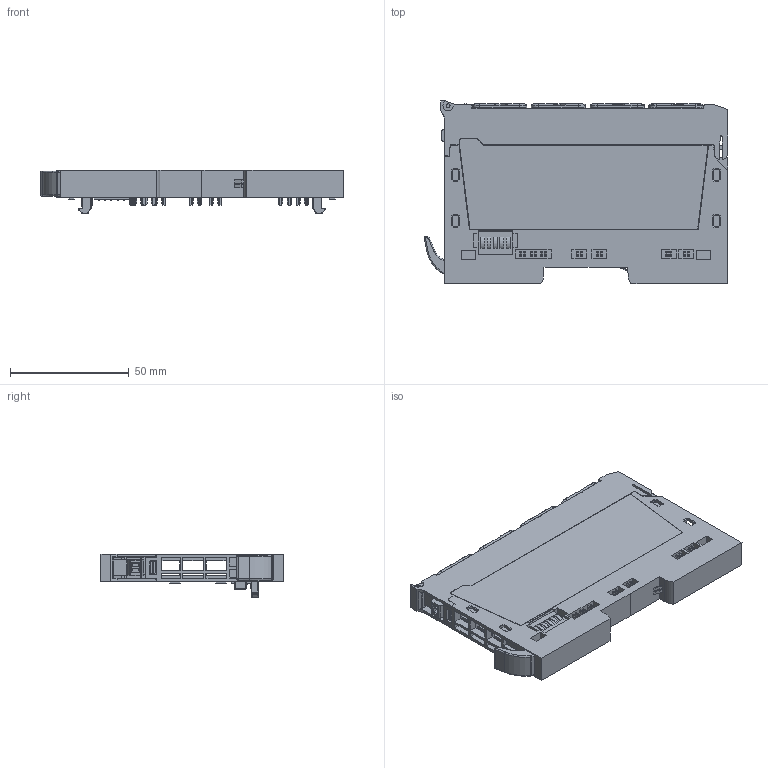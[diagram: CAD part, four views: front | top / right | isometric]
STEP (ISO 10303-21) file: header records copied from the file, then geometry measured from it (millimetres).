
FILE_DESCRIPTION(('CATIA V5R19 STEP'),'2;1');
FILE_NAME('\\srvde068\Desktop\w011128\Gordon Brandlable GE\RT-751F_UR20-16AUX-O.stp','2015-08-10T09:12:18+00:00',('Weidmueller Interface'),('WI'),'CATIA Version 5 Release 20 SP 5 (IN-10)','CATIA V5 STEP AP214','none');
FILE_SCHEMA(('AUTOMOTIVE_DESIGN { 1 0 10303 214 1 1 1 1 }'));
Products named in the file (2): RT-751F_UR20-16AUX-O; Modul
Assembly tree (1 placements, depth 2):
  RT-751F_UR20-16AUX-O
    Modul
Bounding box: 127.88 x 77.45 x 18.5 mm (x, y, z)
Volume: 66160.9 mm3; surface area: 73053.7 mm2
Topology: 24 solids, 40 shells, 6470 faces, 17799 edges, 11475 vertices
Faces by surface type: plane 4218, cylinder 1102, bspline 628, cone 336, torus 70, revolution 64, sphere 36, extrusion 16
Entity records: 263528 total; most frequent: CARTESIAN_POINT 72270, ORIENTED_EDGE 35518, DIRECTION 23039, EDGE_CURVE 17759, VECTOR 12781, LINE 12765, VERTEX_POINT 11475, EDGE_LOOP 6724
